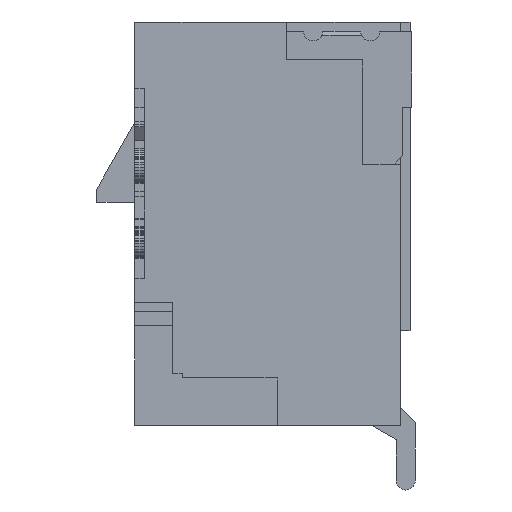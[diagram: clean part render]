
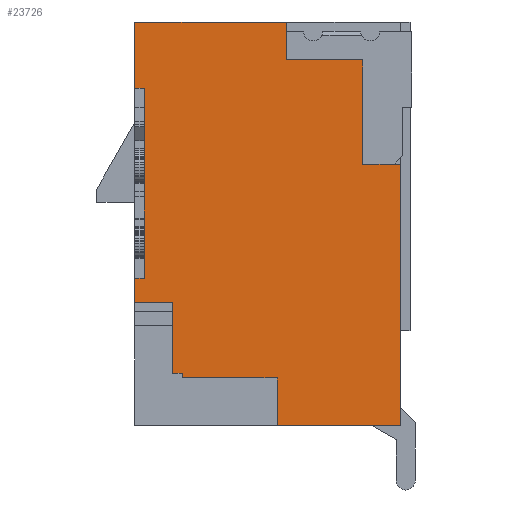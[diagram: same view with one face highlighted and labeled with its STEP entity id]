
A CAD part, left-side view. The second image highlights one B-rep face of the part: STEP entity #23726.
In plain terms, the highlighted planar face has unit normal (-1, 0, 0).
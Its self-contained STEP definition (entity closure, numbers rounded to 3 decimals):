
#2=DIRECTION('',(0.,0.,1.));
#3=VECTOR('',#2,2.);
#4=CARTESIAN_POINT('',(-10.,2.8,-2.7));
#5=LINE('',#4,#3);
#618=DIRECTION('',(0.,-1.,0.));
#619=VECTOR('',#618,0.1);
#620=CARTESIAN_POINT('',(-10.,2.9,-2.7));
#621=LINE('',#620,#619);
#646=DIRECTION('',(0.,0.,1.));
#647=VECTOR('',#646,0.7);
#648=CARTESIAN_POINT('',(-10.,2.9,-0.7));
#649=LINE('',#648,#647);
#654=DIRECTION('',(0.,0.,1.));
#655=VECTOR('',#654,0.25);
#656=CARTESIAN_POINT('',(-10.,2.9,-2.95));
#657=LINE('',#656,#655);
#859=DIRECTION('',(0.,1.,0.));
#860=VECTOR('',#859,1.3);
#861=CARTESIAN_POINT('',(-10.,0.1,-4.25));
#862=LINE('',#861,#860);
#1203=DIRECTION('',(0.,0.,-1.));
#1204=VECTOR('',#1203,2.75);
#1205=CARTESIAN_POINT('',(-10.,0.1,-1.5));
#1206=LINE('',#1205,#1204);
#2178=DIRECTION('',(0.,-1.,0.));
#2179=VECTOR('',#2178,1.6);
#2180=CARTESIAN_POINT('',(-10.,2.9,0.));
#2181=LINE('',#2180,#2179);
#3260=DIRECTION('',(0.,-1.,0.));
#3261=VECTOR('',#3260,0.4);
#3262=CARTESIAN_POINT('',(-10.,0.5,-1.5));
#3263=LINE('',#3262,#3261);
#3288=DIRECTION('',(0.,0.,-1.));
#3289=VECTOR('',#3288,1.1);
#3290=CARTESIAN_POINT('',(-10.,0.5,-0.4));
#3291=LINE('',#3290,#3289);
#3497=DIRECTION('',(0.,0.,-1.));
#3498=VECTOR('',#3497,0.4);
#3499=CARTESIAN_POINT('',(-10.,1.3,0.));
#3500=LINE('',#3499,#3498);
#3547=DIRECTION('',(0.,-1.,0.));
#3548=VECTOR('',#3547,0.8);
#3549=CARTESIAN_POINT('',(-10.,1.3,-0.4));
#3550=LINE('',#3549,#3548);
#16413=DIRECTION('',(0.,0.,1.));
#16414=VECTOR('',#16413,0.5);
#16415=CARTESIAN_POINT('',(-10.,1.4,-4.25));
#16416=LINE('',#16415,#16414);
#16465=DIRECTION('',(0.,1.,0.));
#16466=VECTOR('',#16465,1.);
#16467=CARTESIAN_POINT('',(-10.,1.4,-3.75));
#16468=LINE('',#16467,#16466);
#16517=DIRECTION('',(0.,1.,0.));
#16518=VECTOR('',#16517,0.4);
#16519=CARTESIAN_POINT('',(-10.,2.5,-2.95));
#16520=LINE('',#16519,#16518);
#16529=DIRECTION('',(0.,0.,1.));
#16530=VECTOR('',#16529,0.75);
#16531=CARTESIAN_POINT('',(-10.,2.5,-3.7));
#16532=LINE('',#16531,#16530);
#16622=DIRECTION('',(0.,1.,0.));
#16623=VECTOR('',#16622,0.1);
#16624=CARTESIAN_POINT('',(-10.,2.4,-3.7));
#16625=LINE('',#16624,#16623);
#16634=DIRECTION('',(0.,0.,1.));
#16635=VECTOR('',#16634,0.05);
#16636=CARTESIAN_POINT('',(-10.,2.4,-3.75));
#16637=LINE('',#16636,#16635);
#16682=DIRECTION('',(0.,1.,0.));
#16683=VECTOR('',#16682,0.1);
#16684=CARTESIAN_POINT('',(-10.,2.8,-0.7));
#16685=LINE('',#16684,#16683);
#18002=CARTESIAN_POINT('',(-10.,2.8,-0.7));
#18003=CARTESIAN_POINT('',(-10.,2.9,-0.7));
#18004=VERTEX_POINT('',#18002);
#18005=VERTEX_POINT('',#18003);
#18006=CARTESIAN_POINT('',(-10.,2.9,0.));
#18007=VERTEX_POINT('',#18006);
#18008=CARTESIAN_POINT('',(-10.,1.3,0.));
#18009=VERTEX_POINT('',#18008);
#18010=CARTESIAN_POINT('',(-10.,1.3,-0.4));
#18011=VERTEX_POINT('',#18010);
#18012=CARTESIAN_POINT('',(-10.,0.5,-0.4));
#18013=VERTEX_POINT('',#18012);
#18014=CARTESIAN_POINT('',(-10.,0.5,-1.5));
#18015=VERTEX_POINT('',#18014);
#18016=CARTESIAN_POINT('',(-10.,0.1,-1.5));
#18017=VERTEX_POINT('',#18016);
#18018=CARTESIAN_POINT('',(-10.,0.1,-4.25));
#18019=VERTEX_POINT('',#18018);
#18020=CARTESIAN_POINT('',(-10.,1.4,-4.25));
#18021=VERTEX_POINT('',#18020);
#18022=CARTESIAN_POINT('',(-10.,1.4,-3.75));
#18023=VERTEX_POINT('',#18022);
#18024=CARTESIAN_POINT('',(-10.,2.4,-3.75));
#18025=VERTEX_POINT('',#18024);
#18026=CARTESIAN_POINT('',(-10.,2.4,-3.7));
#18027=VERTEX_POINT('',#18026);
#18028=CARTESIAN_POINT('',(-10.,2.5,-3.7));
#18029=VERTEX_POINT('',#18028);
#18030=CARTESIAN_POINT('',(-10.,2.5,-2.95));
#18031=VERTEX_POINT('',#18030);
#18032=CARTESIAN_POINT('',(-10.,2.9,-2.95));
#18033=VERTEX_POINT('',#18032);
#18034=CARTESIAN_POINT('',(-10.,2.9,-2.7));
#18035=VERTEX_POINT('',#18034);
#18036=CARTESIAN_POINT('',(-10.,2.8,-2.7));
#18037=VERTEX_POINT('',#18036);
#23683=CARTESIAN_POINT('',(-10.,1.5,-2.125));
#23684=DIRECTION('',(1.,0.,0.));
#23685=DIRECTION('',(0.,0.,-1.));
#23686=AXIS2_PLACEMENT_3D('',#23683,#23684,#23685);
#23687=PLANE('',#23686);
#23689=ORIENTED_EDGE('',*,*,#23688,.T.);
#23691=ORIENTED_EDGE('',*,*,#23690,.T.);
#23693=ORIENTED_EDGE('',*,*,#23692,.T.);
#23695=ORIENTED_EDGE('',*,*,#23694,.T.);
#23697=ORIENTED_EDGE('',*,*,#23696,.T.);
#23699=ORIENTED_EDGE('',*,*,#23698,.T.);
#23701=ORIENTED_EDGE('',*,*,#23700,.T.);
#23703=ORIENTED_EDGE('',*,*,#23702,.T.);
#23705=ORIENTED_EDGE('',*,*,#23704,.T.);
#23707=ORIENTED_EDGE('',*,*,#23706,.T.);
#23709=ORIENTED_EDGE('',*,*,#23708,.T.);
#23711=ORIENTED_EDGE('',*,*,#23710,.T.);
#23713=ORIENTED_EDGE('',*,*,#23712,.T.);
#23715=ORIENTED_EDGE('',*,*,#23714,.T.);
#23717=ORIENTED_EDGE('',*,*,#23716,.T.);
#23719=ORIENTED_EDGE('',*,*,#23718,.T.);
#23721=ORIENTED_EDGE('',*,*,#23720,.T.);
#23723=ORIENTED_EDGE('',*,*,#23722,.T.);
#23724=EDGE_LOOP('',(#23689,#23691,#23693,#23695,#23697,#23699,#23701,#23703,
#23705,#23707,#23709,#23711,#23713,#23715,#23717,#23719,#23721,#23723));
#23725=FACE_OUTER_BOUND('',#23724,.F.);
#23688=EDGE_CURVE('',#18037,#18004,#5,.T.);
#23690=EDGE_CURVE('',#18004,#18005,#16685,.T.);
#23692=EDGE_CURVE('',#18005,#18007,#649,.T.);
#23694=EDGE_CURVE('',#18007,#18009,#2181,.T.);
#23696=EDGE_CURVE('',#18009,#18011,#3500,.T.);
#23698=EDGE_CURVE('',#18011,#18013,#3550,.T.);
#23700=EDGE_CURVE('',#18013,#18015,#3291,.T.);
#23702=EDGE_CURVE('',#18015,#18017,#3263,.T.);
#23704=EDGE_CURVE('',#18017,#18019,#1206,.T.);
#23706=EDGE_CURVE('',#18019,#18021,#862,.T.);
#23708=EDGE_CURVE('',#18021,#18023,#16416,.T.);
#23710=EDGE_CURVE('',#18023,#18025,#16468,.T.);
#23712=EDGE_CURVE('',#18025,#18027,#16637,.T.);
#23714=EDGE_CURVE('',#18027,#18029,#16625,.T.);
#23716=EDGE_CURVE('',#18029,#18031,#16532,.T.);
#23718=EDGE_CURVE('',#18031,#18033,#16520,.T.);
#23720=EDGE_CURVE('',#18033,#18035,#657,.T.);
#23722=EDGE_CURVE('',#18035,#18037,#621,.T.);
#23726=ADVANCED_FACE('',(#23725),#23687,.F.);
